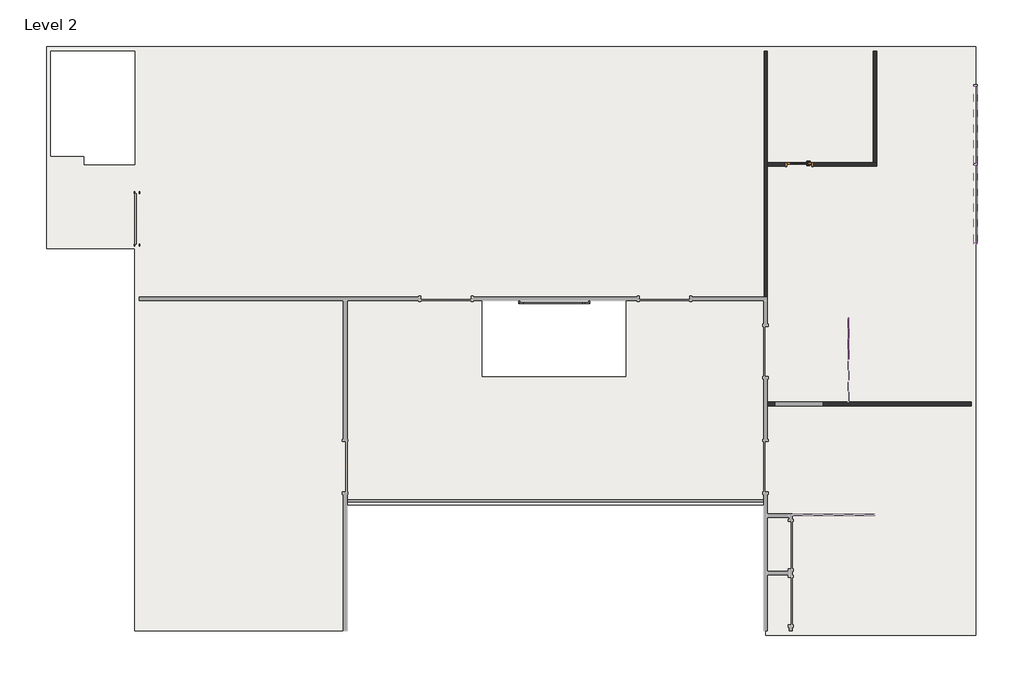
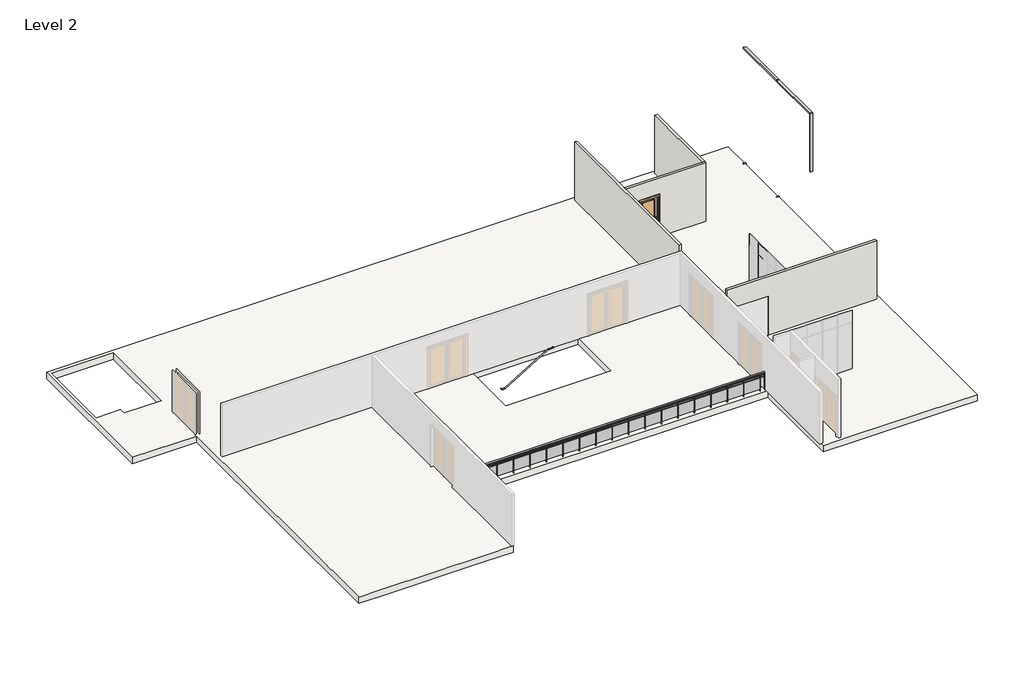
# One storey, part 2 of 2: 14 members, 4 walls, 2 railings, 1 door, 1 slab.
"""IFC4 building model written with IfcOpenShell, lengths in millimetres."""

from ifc_helpers import new_model, si_unit, point, frame, origin, place, context, project, spatial, polyline, circle_curve, ellipse_curve, trimmed, outline, extrude, faceted_brep, transform, mapped, element, save
from ifc_brep_helpers import plane_surface, cylinder_surface, extruded_surface, advanced_brep
from components import door_b5f71497, member_e3fb43e4, member_29374509, member_2936114a, member_48c588a9, member_bc21adc4, member_eac71c60, member_136d72b7, member_eaba9652, member_3f395ae9, member_b11f405a

model = new_model("IFC4")

# Units and contexts
model_context = context("Model", 3, world=origin())
ifc_project = project(units=[si_unit("LENGTHUNIT", "METRE", prefix="MILLI")], contexts=[model_context])

# Site, building, storey
site = spatial("IfcSite", under=ifc_project)
building = spatial("IfcBuilding", under=site)
storey = spatial("IfcBuildingStorey", under=building, Name="Level 2", Elevation=3048.0)

# Door
placement = place(None, origin())
door_shape = door_b5f71497(model_context)
element("IfcDoor", 1, ObjectType="Door-Passage-Single-Full_Lite : 36\" x 84\"", at=placement, inside=storey, context=model_context, shape_type="MappedRepresentation", body=[
    mapped(door_shape, transform((5758.220118, 11480.0483604, 3048.0), x_axis=(-1.0, 0.0, 0.0), y_axis=(0.0, -1.0, 0.0), z_axis=(0.0, 0.0, 1.0))),
])

# Members
member_shape = member_e3fb43e4(model_context)
element("IfcMember", 2, ObjectType="Rectangular Mullion : 1\" Square", at=placement, inside=storey, context=model_context, shape_type="MappedRepresentation", body=[
    mapped(member_shape, transform((7575.907618, 5917.4483604, 5486.4), x_axis=(0.0, 1.0, 0.0), y_axis=(1.0, 0.0, 0.0), z_axis=(0.0, 0.0, -1.0))),
])
member_2_shape = member_29374509(model_context)
element("IfcMember", 3, ObjectType="Rectangular Mullion : 1\" Square", at=placement, inside=storey, context=model_context, shape_type="MappedRepresentation", body=[
    mapped(member_2_shape, transform((7575.907618, 5155.4483603, 3048.0), x_axis=(0.0, 1.0, 0.0), y_axis=(1.0, 0.0, 0.0), z_axis=(0.0, 0.0, -1.0))),
])
member_3_shape = member_2936114a(model_context)
element("IfcMember", 4, ObjectType="Rectangular Mullion : 1\" Square", at=placement, inside=storey, context=model_context, shape_type="MappedRepresentation", body=[
    mapped(member_3_shape, transform((7575.907618, 5155.4483603, 5486.4), x_axis=(0.0, 1.0, 0.0), y_axis=(1.0, 0.0, 0.0), z_axis=(0.0, 0.0, -1.0))),
])
member_4_shape = member_48c588a9(model_context)
element("IfcMember", 5, ObjectType="Rectangular Mullion : 1\" Square", at=placement, inside=storey, context=model_context, shape_type="MappedRepresentation", body=[
    mapped(member_4_shape, transform((7575.907618, 5168.1483603, 3048.0), x_axis=(0.0, 0.0, -1.0), y_axis=(1.0, 0.0, 0.0), z_axis=(0.0, -1.0, 0.0))),
])
member_5_shape = member_bc21adc4(model_context)
element("IfcMember", 6, ObjectType="Rectangular Mullion : 1\" Square", at=placement, inside=storey, context=model_context, shape_type="MappedRepresentation", body=[
    mapped(member_5_shape, transform((7575.907618, 5142.7483603, 6096.0), x_axis=(0.0, 0.0, 1.0), y_axis=(1.0, 0.0, 0.0), z_axis=(0.0, 1.0, 0.0))),
])
member_6_shape = member_eac71c60(model_context)
element("IfcMember", 7, ObjectType="Rectangular Mullion : 1\" Square", at=placement, inside=storey, context=model_context, shape_type="MappedRepresentation", body=[
    mapped(member_6_shape, transform((7575.907618, 5892.0483604, 5486.4), x_axis=(0.0, 0.0, 1.0), y_axis=(1.0, 0.0, 0.0), z_axis=(0.0, 1.0, 0.0))),
])
member_7_shape = member_136d72b7(model_context)
element("IfcMember", 8, ObjectType="Rectangular Mullion : 1\" Square", at=placement, inside=storey, context=model_context, shape_type="MappedRepresentation", body=[
    mapped(member_7_shape, transform((7575.907618, 5142.7483603, 5486.4), x_axis=(0.0, 0.0, 1.0), y_axis=(1.0, 0.0, 0.0), z_axis=(0.0, 1.0, 0.0))),
])
member_8_shape = member_eaba9652(model_context)
element("IfcMember", 9, ObjectType="Rectangular Mullion : 2.5\" x 5\" rectangular", at=placement, inside=storey, context=model_context, shape_type="MappedRepresentation", body=[
    mapped(member_8_shape, transform((12151.082618, 11486.3983604, 0.0), x_axis=(0.0, 1.0, 0.0), y_axis=(1.0, 0.0, 0.0), z_axis=(0.0, 0.0, -1.0))),
])
member_9_shape = member_3f395ae9(model_context)
element("IfcMember", 10, ObjectType="Rectangular Mullion : 2.5\" x 5\" rectangular", at=placement, inside=storey, context=model_context, shape_type="MappedRepresentation", body=[
    mapped(member_9_shape, transform((12151.082618, 8590.7983604, 9144.0), x_axis=(0.0, -1.0, 0.0), y_axis=(1.0, 0.0, 0.0), z_axis=(0.0, 0.0, 1.0))),
])
element("IfcMember", 11, ObjectType="Rectangular Mullion : 2.5\" x 5\" rectangular", at=placement, inside=storey, context=model_context, shape_type="MappedRepresentation", body=[
    mapped(member_9_shape, transform((12151.082618, 14381.9983604, 0.0), x_axis=(0.0, 1.0, 0.0), y_axis=(1.0, 0.0, 0.0), z_axis=(0.0, 0.0, -1.0))),
])
member_10_shape = member_b11f405a(model_context)
element("IfcMember", 12, ObjectType="Rectangular Mullion : 2.5\" x 5\" rectangular", at=placement, inside=storey, context=model_context, shape_type="MappedRepresentation", body=[
    mapped(member_10_shape, transform((12151.082618, 14318.4983604, 9144.0), x_axis=(0.0, 0.0, 1.0), y_axis=(1.0, 0.0, 0.0), z_axis=(0.0, 1.0, 0.0))),
])
element("IfcMember", 13, ObjectType="Rectangular Mullion : 2.5\" x 5\" rectangular", at=placement, inside=storey, context=model_context, shape_type="MappedRepresentation", body=[
    mapped(member_10_shape, transform((12151.082618, 11454.6483604, 9144.0), x_axis=(0.0, 0.0, 1.0), y_axis=(1.0, 0.0, 0.0), z_axis=(0.0, 1.0, 0.0))),
])
element("IfcMember", 14, ObjectType="Rectangular Mullion : 2.5\" x 5\" rectangular", at=placement, inside=storey, context=model_context, shape_type="MappedRepresentation", body=[
    mapped(member_10_shape, transform((12151.082618, 8654.2983604, 0.0), x_axis=(0.0, 0.0, -1.0), y_axis=(1.0, 0.0, 0.0), z_axis=(0.0, -1.0, 0.0))),
])
element("IfcMember", 15, ObjectType="Rectangular Mullion : 2.5\" x 5\" rectangular", at=placement, inside=storey, context=model_context, shape_type="MappedRepresentation", body=[
    mapped(member_10_shape, transform((12151.082618, 11518.1483604, 0.0), x_axis=(0.0, 0.0, -1.0), y_axis=(1.0, 0.0, 0.0), z_axis=(0.0, -1.0, 0.0))),
])

# Railings
element("IfcRailing", 16, ObjectType="Glass Panel - Bottom Fill", at=placement, inside=storey, context=model_context, shape_type="SolidModel", body=[
    advanced_brep(
    [(-10639.067382, -677.0266396, 3962.4), (-10639.067382, -753.2266396, 3962.4), (4461.232618, -677.0266396, 3962.4), (4461.232618, -753.2266396, 3962.4)],
    [
        (0, 1, ellipse_curve(frame((-10639.067382, -715.1266396, 3962.4), z_axis=(-1.0, 0.0, 0.0), x_axis=(0.0, -1.0, 0.0)), 38.1, 28.575)),
        (1, 0, ellipse_curve(frame((-10639.067382, -715.1266396, 3962.4), z_axis=(-1.0, 0.0, 0.0), x_axis=(0.0, -1.0, 0.0)), 38.1, 28.575)),
        (2, 3, ellipse_curve(frame((4461.232618, -715.1266396, 3962.4), z_axis=(1.0, 0.0, 0.0), x_axis=(0.0, -1.0, 0.0)), 38.1, 28.575)),
        (3, 2, ellipse_curve(frame((4461.232618, -715.1266396, 3962.4), z_axis=(1.0, 0.0, 0.0), x_axis=(0.0, -1.0, 0.0)), 38.1, 28.575)),
        (0, 2),
        (3, 1),
    ],
    [
        plane_surface(frame((-10639.067382, -715.1266396, 3962.4), z_axis=(-1.0, 0.0, 0.0), x_axis=(0.0, 1.0, 0.0))),
        plane_surface(frame((4461.232618, -715.1266396, 3962.4), z_axis=(1.0, 0.0, 0.0), x_axis=(0.0, 1.0, 0.0))),
        extruded_surface(trimmed(ellipse_curve(frame((4461.232618, -715.1266396, 3962.4), z_axis=(-1.0, 0.0, 0.0), x_axis=(0.0, -1.0, 0.0)), 38.1, 28.575), [point((4461.232618, -677.0266396, 3962.4))], [point((4461.232618, -753.2266396, 3962.4))], True, "CARTESIAN"), (-15100.3, 0.0, 0.0), 15100.3),
        extruded_surface(trimmed(ellipse_curve(frame((4461.232618, -715.1266396, 3962.4), z_axis=(-1.0, 0.0, 0.0), x_axis=(0.0, -1.0, 0.0)), 38.1, 28.575), [point((4461.232618, -753.2266396, 3962.4))], [point((4461.232618, -677.0266396, 3962.4))], True, "CARTESIAN"), (-15100.3, 0.0, 0.0), 15100.3),
    ],
    [
        (0, [[1, 2]]),
        (1, [[3, 4]]),
        (2, [[-1, 5, -4, 6]]),
        (3, [[-2, -6, -3, -5]]),
    ],
),
    extrude(outline(polyline([(-10639.067382, -727.8266396), (-10639.067382, -702.4266396), (4461.232618, -702.4266396), (4461.232618, -727.8266396), (-10639.067382, -727.8266396)])), frame((0.0, 0.0, 3848.1), z_axis=(0.0, 0.0, 1.0), x_axis=(1.0, 0.0, 0.0)), (0.0, 0.0, 1.0), 25.4),
    extrude(outline(polyline([(-10639.067382, -727.8266396), (-10639.067382, -702.4266396), (4461.232618, -702.4266396), (4461.232618, -727.8266396), (-10639.067382, -727.8266396)])), frame((0.0, 0.0, 3746.5), z_axis=(0.0, 0.0, 1.0), x_axis=(1.0, 0.0, 0.0)), (0.0, 0.0, 1.0), 25.4),
    extrude(outline(polyline([(4219.932618, -740.5266396), (4219.932618, -689.7266396), (4232.632618, -689.7266396), (4232.632618, -740.5266396), (4219.932618, -740.5266396)])), frame((0.0, 0.0, 3048.0), z_axis=(0.0, 0.0, 1.0), x_axis=(1.0, 0.0, 0.0)), (0.0, 0.0, 1.0), 885.6788223),
    extrude(outline(polyline([(3413.482618, -708.5914825), (4226.282618, -708.5914825), (4226.282618, -714.9414825), (3413.482618, -714.9414825), (3413.482618, -708.5914825)])), frame((0.0, 0.0, 3149.6), z_axis=(0.0, 0.0, 1.0), x_axis=(1.0, 0.0, 0.0)), (0.0, 0.0, 1.0), 596.9),
    extrude(outline(polyline([(3407.132618, -740.5266396), (3407.132618, -689.7266396), (3419.832618, -689.7266396), (3419.832618, -740.5266396), (3407.132618, -740.5266396)])), frame((0.0, 0.0, 3048.0), z_axis=(0.0, 0.0, 1.0), x_axis=(1.0, 0.0, 0.0)), (0.0, 0.0, 1.0), 885.6788223),
    extrude(outline(polyline([(2600.682618, -708.5914825), (3413.482618, -708.5914825), (3413.482618, -714.9414825), (2600.682618, -714.9414825), (2600.682618, -708.5914825)])), frame((0.0, 0.0, 3149.6), z_axis=(0.0, 0.0, 1.0), x_axis=(1.0, 0.0, 0.0)), (0.0, 0.0, 1.0), 596.9),
    extrude(outline(polyline([(2594.332618, -740.5266396), (2594.332618, -689.7266396), (2607.032618, -689.7266396), (2607.032618, -740.5266396), (2594.332618, -740.5266396)])), frame((0.0, 0.0, 3048.0), z_axis=(0.0, 0.0, 1.0), x_axis=(1.0, 0.0, 0.0)), (0.0, 0.0, 1.0), 885.6788223),
    extrude(outline(polyline([(1787.882618, -708.5914825), (2600.682618, -708.5914825), (2600.682618, -714.9414825), (1787.882618, -714.9414825), (1787.882618, -708.5914825)])), frame((0.0, 0.0, 3149.6), z_axis=(0.0, 0.0, 1.0), x_axis=(1.0, 0.0, 0.0)), (0.0, 0.0, 1.0), 596.9),
    extrude(outline(polyline([(1781.532618, -740.5266396), (1781.532618, -689.7266396), (1794.232618, -689.7266396), (1794.232618, -740.5266396), (1781.532618, -740.5266396)])), frame((0.0, 0.0, 3048.0), z_axis=(0.0, 0.0, 1.0), x_axis=(1.0, 0.0, 0.0)), (0.0, 0.0, 1.0), 885.6788223),
    extrude(outline(polyline([(975.082618, -708.5914825), (1787.882618, -708.5914825), (1787.882618, -714.9414825), (975.082618, -714.9414825), (975.082618, -708.5914825)])), frame((0.0, 0.0, 3149.6), z_axis=(0.0, 0.0, 1.0), x_axis=(1.0, 0.0, 0.0)), (0.0, 0.0, 1.0), 596.9),
    extrude(outline(polyline([(968.732618, -740.5266396), (968.732618, -689.7266396), (981.432618, -689.7266396), (981.432618, -740.5266396), (968.732618, -740.5266396)])), frame((0.0, 0.0, 3048.0), z_axis=(0.0, 0.0, 1.0), x_axis=(1.0, 0.0, 0.0)), (0.0, 0.0, 1.0), 885.6788223),
    extrude(outline(polyline([(162.282618, -708.5914825), (975.082618, -708.5914825), (975.082618, -714.9414825), (162.282618, -714.9414825), (162.282618, -708.5914825)])), frame((0.0, 0.0, 3149.6), z_axis=(0.0, 0.0, 1.0), x_axis=(1.0, 0.0, 0.0)), (0.0, 0.0, 1.0), 596.9),
    extrude(outline(polyline([(155.932618, -740.5266396), (155.932618, -689.7266396), (168.632618, -689.7266396), (168.632618, -740.5266396), (155.932618, -740.5266396)])), frame((0.0, 0.0, 3048.0), z_axis=(0.0, 0.0, 1.0), x_axis=(1.0, 0.0, 0.0)), (0.0, 0.0, 1.0), 885.6788223),
    extrude(outline(polyline([(-650.517382, -708.5914825), (162.282618, -708.5914825), (162.282618, -714.9414825), (-650.517382, -714.9414825), (-650.517382, -708.5914825)])), frame((0.0, 0.0, 3149.6), z_axis=(0.0, 0.0, 1.0), x_axis=(1.0, 0.0, 0.0)), (0.0, 0.0, 1.0), 596.9),
    extrude(outline(polyline([(-656.867382, -740.5266396), (-656.867382, -689.7266396), (-644.167382, -689.7266396), (-644.167382, -740.5266396), (-656.867382, -740.5266396)])), frame((0.0, 0.0, 3048.0), z_axis=(0.0, 0.0, 1.0), x_axis=(1.0, 0.0, 0.0)), (0.0, 0.0, 1.0), 885.6788223),
    extrude(outline(polyline([(-1463.317382, -708.5914825), (-650.517382, -708.5914825), (-650.517382, -714.9414825), (-1463.317382, -714.9414825), (-1463.317382, -708.5914825)])), frame((0.0, 0.0, 3149.6), z_axis=(0.0, 0.0, 1.0), x_axis=(1.0, 0.0, 0.0)), (0.0, 0.0, 1.0), 596.9),
    extrude(outline(polyline([(-1469.667382, -740.5266396), (-1469.667382, -689.7266396), (-1456.967382, -689.7266396), (-1456.967382, -740.5266396), (-1469.667382, -740.5266396)])), frame((0.0, 0.0, 3048.0), z_axis=(0.0, 0.0, 1.0), x_axis=(1.0, 0.0, 0.0)), (0.0, 0.0, 1.0), 885.6788223),
    extrude(outline(polyline([(-2276.117382, -708.5914825), (-1463.317382, -708.5914825), (-1463.317382, -714.9414825), (-2276.117382, -714.9414825), (-2276.117382, -708.5914825)])), frame((0.0, 0.0, 3149.6), z_axis=(0.0, 0.0, 1.0), x_axis=(1.0, 0.0, 0.0)), (0.0, 0.0, 1.0), 596.9),
    extrude(outline(polyline([(-2282.467382, -740.5266396), (-2282.467382, -689.7266396), (-2269.767382, -689.7266396), (-2269.767382, -740.5266396), (-2282.467382, -740.5266396)])), frame((0.0, 0.0, 3048.0), z_axis=(0.0, 0.0, 1.0), x_axis=(1.0, 0.0, 0.0)), (0.0, 0.0, 1.0), 885.6788223),
    extrude(outline(polyline([(-3088.917382, -708.5914825), (-2276.117382, -708.5914825), (-2276.117382, -714.9414825), (-3088.917382, -714.9414825), (-3088.917382, -708.5914825)])), frame((0.0, 0.0, 3149.6), z_axis=(0.0, 0.0, 1.0), x_axis=(1.0, 0.0, 0.0)), (0.0, 0.0, 1.0), 596.9),
    extrude(outline(polyline([(-3095.267382, -740.5266396), (-3095.267382, -689.7266396), (-3082.567382, -689.7266396), (-3082.567382, -740.5266396), (-3095.267382, -740.5266396)])), frame((0.0, 0.0, 3048.0), z_axis=(0.0, 0.0, 1.0), x_axis=(1.0, 0.0, 0.0)), (0.0, 0.0, 1.0), 885.6788223),
    extrude(outline(polyline([(-3901.717382, -708.5914825), (-3088.917382, -708.5914825), (-3088.917382, -714.9414825), (-3901.717382, -714.9414825), (-3901.717382, -708.5914825)])), frame((0.0, 0.0, 3149.6), z_axis=(0.0, 0.0, 1.0), x_axis=(1.0, 0.0, 0.0)), (0.0, 0.0, 1.0), 596.9),
    extrude(outline(polyline([(-3908.067382, -740.5266396), (-3908.067382, -689.7266396), (-3895.367382, -689.7266396), (-3895.367382, -740.5266396), (-3908.067382, -740.5266396)])), frame((0.0, 0.0, 3048.0), z_axis=(0.0, 0.0, 1.0), x_axis=(1.0, 0.0, 0.0)), (0.0, 0.0, 1.0), 885.6788223),
    extrude(outline(polyline([(-4714.517382, -708.5914825), (-3901.717382, -708.5914825), (-3901.717382, -714.9414825), (-4714.517382, -714.9414825), (-4714.517382, -708.5914825)])), frame((0.0, 0.0, 3149.6), z_axis=(0.0, 0.0, 1.0), x_axis=(1.0, 0.0, 0.0)), (0.0, 0.0, 1.0), 596.9),
    extrude(outline(polyline([(-4720.867382, -740.5266396), (-4720.867382, -689.7266396), (-4708.167382, -689.7266396), (-4708.167382, -740.5266396), (-4720.867382, -740.5266396)])), frame((0.0, 0.0, 3048.0), z_axis=(0.0, 0.0, 1.0), x_axis=(1.0, 0.0, 0.0)), (0.0, 0.0, 1.0), 885.6788223),
    extrude(outline(polyline([(-5527.317382, -708.5914825), (-4714.517382, -708.5914825), (-4714.517382, -714.9414825), (-5527.317382, -714.9414825), (-5527.317382, -708.5914825)])), frame((0.0, 0.0, 3149.6), z_axis=(0.0, 0.0, 1.0), x_axis=(1.0, 0.0, 0.0)), (0.0, 0.0, 1.0), 596.9),
    extrude(outline(polyline([(-5533.667382, -740.5266396), (-5533.667382, -689.7266396), (-5520.967382, -689.7266396), (-5520.967382, -740.5266396), (-5533.667382, -740.5266396)])), frame((0.0, 0.0, 3048.0), z_axis=(0.0, 0.0, 1.0), x_axis=(1.0, 0.0, 0.0)), (0.0, 0.0, 1.0), 885.6788223),
    extrude(outline(polyline([(-6340.117382, -708.5914825), (-5527.317382, -708.5914825), (-5527.317382, -714.9414825), (-6340.117382, -714.9414825), (-6340.117382, -708.5914825)])), frame((0.0, 0.0, 3149.6), z_axis=(0.0, 0.0, 1.0), x_axis=(1.0, 0.0, 0.0)), (0.0, 0.0, 1.0), 596.9),
    extrude(outline(polyline([(-6346.467382, -740.5266396), (-6346.467382, -689.7266396), (-6333.767382, -689.7266396), (-6333.767382, -740.5266396), (-6346.467382, -740.5266396)])), frame((0.0, 0.0, 3048.0), z_axis=(0.0, 0.0, 1.0), x_axis=(1.0, 0.0, 0.0)), (0.0, 0.0, 1.0), 885.6788223),
    extrude(outline(polyline([(-7152.917382, -708.5914825), (-6340.117382, -708.5914825), (-6340.117382, -714.9414825), (-7152.917382, -714.9414825), (-7152.917382, -708.5914825)])), frame((0.0, 0.0, 3149.6), z_axis=(0.0, 0.0, 1.0), x_axis=(1.0, 0.0, 0.0)), (0.0, 0.0, 1.0), 596.9),
    extrude(outline(polyline([(-7159.267382, -740.5266396), (-7159.267382, -689.7266396), (-7146.567382, -689.7266396), (-7146.567382, -740.5266396), (-7159.267382, -740.5266396)])), frame((0.0, 0.0, 3048.0), z_axis=(0.0, 0.0, 1.0), x_axis=(1.0, 0.0, 0.0)), (0.0, 0.0, 1.0), 885.6788223),
    extrude(outline(polyline([(-7965.717382, -708.5914825), (-7152.917382, -708.5914825), (-7152.917382, -714.9414825), (-7965.717382, -714.9414825), (-7965.717382, -708.5914825)])), frame((0.0, 0.0, 3149.6), z_axis=(0.0, 0.0, 1.0), x_axis=(1.0, 0.0, 0.0)), (0.0, 0.0, 1.0), 596.9),
    extrude(outline(polyline([(-7972.067382, -740.5266396), (-7972.067382, -689.7266396), (-7959.367382, -689.7266396), (-7959.367382, -740.5266396), (-7972.067382, -740.5266396)])), frame((0.0, 0.0, 3048.0), z_axis=(0.0, 0.0, 1.0), x_axis=(1.0, 0.0, 0.0)), (0.0, 0.0, 1.0), 885.6788223),
    extrude(outline(polyline([(-8778.517382, -708.5914825), (-7965.717382, -708.5914825), (-7965.717382, -714.9414825), (-8778.517382, -714.9414825), (-8778.517382, -708.5914825)])), frame((0.0, 0.0, 3149.6), z_axis=(0.0, 0.0, 1.0), x_axis=(1.0, 0.0, 0.0)), (0.0, 0.0, 1.0), 596.9),
    extrude(outline(polyline([(-8784.867382, -740.5266396), (-8784.867382, -689.7266396), (-8772.167382, -689.7266396), (-8772.167382, -740.5266396), (-8784.867382, -740.5266396)])), frame((0.0, 0.0, 3048.0), z_axis=(0.0, 0.0, 1.0), x_axis=(1.0, 0.0, 0.0)), (0.0, 0.0, 1.0), 885.6788223),
    extrude(outline(polyline([(-9591.317382, -708.5914825), (-8778.517382, -708.5914825), (-8778.517382, -714.9414825), (-9591.317382, -714.9414825), (-9591.317382, -708.5914825)])), frame((0.0, 0.0, 3149.6), z_axis=(0.0, 0.0, 1.0), x_axis=(1.0, 0.0, 0.0)), (0.0, 0.0, 1.0), 596.9),
    extrude(outline(polyline([(-9597.667382, -740.5266396), (-9597.667382, -689.7266396), (-9584.967382, -689.7266396), (-9584.967382, -740.5266396), (-9597.667382, -740.5266396)])), frame((0.0, 0.0, 3048.0), z_axis=(0.0, 0.0, 1.0), x_axis=(1.0, 0.0, 0.0)), (0.0, 0.0, 1.0), 885.6788223),
    extrude(outline(polyline([(-10404.117382, -708.5914825), (-9591.317382, -708.5914825), (-9591.317382, -714.9414825), (-10404.117382, -714.9414825), (-10404.117382, -708.5914825)])), frame((0.0, 0.0, 3149.6), z_axis=(0.0, 0.0, 1.0), x_axis=(1.0, 0.0, 0.0)), (0.0, 0.0, 1.0), 596.9),
    extrude(outline(polyline([(-10410.467382, -740.5266396), (-10410.467382, -689.7266396), (-10397.767382, -689.7266396), (-10397.767382, -740.5266396), (-10410.467382, -740.5266396)])), frame((0.0, 0.0, 3048.0), z_axis=(0.0, 0.0, 1.0), x_axis=(1.0, 0.0, 0.0)), (0.0, 0.0, 1.0), 885.6788223),
    extrude(outline(polyline([(4448.532618, -724.6516396), (4448.532618, -705.6016396), (4467.582618, -705.6016396), (4467.582618, -724.6516396), (4448.532618, -724.6516396)])), frame((0.0, 0.0, 3048.0), z_axis=(0.0, 0.0, 1.0), x_axis=(1.0, 0.0, 0.0)), (0.0, 0.0, 1.0), 885.6788223),
    extrude(outline(polyline([(-10645.417382, -724.6516396), (-10645.417382, -705.6016396), (-10626.367382, -705.6016396), (-10626.367382, -724.6516396), (-10645.417382, -724.6516396)])), frame((0.0, 0.0, 3048.0), z_axis=(0.0, 0.0, 1.0), x_axis=(1.0, 0.0, 0.0)), (0.0, 0.0, 1.0), 885.6788223),
])
element("IfcRailing", 17, ObjectType="Wall Mount Handrail", at=placement, inside=storey, context=model_context, shape_type="AdvancedBrep", body=[
    advanced_brep(
    [(-4236.7479685, 6482.5983604, 1805.1362182), (-4236.7479685, 6444.4983604, 1805.1362182), (-2105.6952284, 6444.4983604, 3096.6833333), (-2105.6952284, 6482.5983604, 3096.6833333), (-2006.870122, 6444.4983604, 3096.6833333), (-2006.870122, 6482.5983604, 3096.6833333), (-4413.520122, 6539.7483604, 1805.1362182), (-4375.420122, 6539.7483604, 1805.1362182), (-4413.520122, 6444.4983604, 1805.1362182), (-4375.420122, 6482.5983604, 1805.1362182), (-1835.420122, 6444.4983604, 3096.6833333), (-1873.520122, 6482.5983604, 3096.6833333), (-1835.420122, 6539.7483604, 3096.6833333), (-1873.520122, 6539.7483604, 3096.6833333)],
    [
        (0, 1, ellipse_curve(frame((-4236.7479685, 6463.5483604, 1805.1362182), z_axis=(0.963119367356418, 0.0, 0.2690744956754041), x_axis=(0.2690744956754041, 0.0, -0.9631193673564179)), 19.7794797, 19.05)),
        (1, 2),
        (2, 3, ellipse_curve(frame((-2105.6952284, 6463.5483604, 3096.6833333), z_axis=(-0.963119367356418, 0.0, -0.26907449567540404), x_axis=(0.26907449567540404, 0.0, -0.9631193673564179)), 19.7794797, 19.05)),
        (3, 0),
        (1, 0, ellipse_curve(frame((-4236.7479685, 6463.5483604, 1805.1362182), z_axis=(0.963119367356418, 0.0, 0.2690744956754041), x_axis=(0.2690744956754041, 0.0, -0.9631193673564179)), 19.7794797, 19.05)),
        (3, 2, ellipse_curve(frame((-2105.6952284, 6463.5483604, 3096.6833333), z_axis=(-0.963119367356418, 0.0, -0.26907449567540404), x_axis=(0.26907449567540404, 0.0, -0.9631193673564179)), 19.7794797, 19.05)),
        (2, 4),
        (4, 5, circle_curve(frame((-2006.870122, 6463.5483604, 3096.6833333), z_axis=(-1.0, 0.0, 0.0), x_axis=(0.0, 1.0, 0.0)), 19.05)),
        (5, 3),
        (5, 4, circle_curve(frame((-2006.870122, 6463.5483604, 3096.6833333), z_axis=(-1.0, 0.0, 0.0), x_axis=(0.0, 1.0, 0.0)), 19.05)),
        (6, 7, circle_curve(frame((-4394.470122, 6539.7483604, 1805.1362182), z_axis=(0.0, 1.0, 0.0), x_axis=(1.0, 0.0, 0.0)), 19.05)),
        (7, 6, circle_curve(frame((-4394.470122, 6539.7483604, 1805.1362182), z_axis=(0.0, 1.0, 0.0), x_axis=(1.0, 0.0, 0.0)), 19.05)),
        (6, 8),
        (8, 9, ellipse_curve(frame((-4394.470122, 6463.5483604, 1805.1362182), z_axis=(-0.7071067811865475, 0.7071067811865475, 0.0), x_axis=(0.7071067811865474, 0.7071067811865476, 0.0)), 26.9407684, 19.05)),
        (9, 7),
        (9, 8, ellipse_curve(frame((-4394.470122, 6463.5483604, 1805.1362182), z_axis=(-0.7071067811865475, 0.7071067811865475, 0.0), x_axis=(0.7071067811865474, 0.7071067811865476, 0.0)), 26.9407684, 19.05)),
        (8, 1),
        (0, 9),
        (4, 10),
        (10, 11, ellipse_curve(frame((-1854.470122, 6463.5483604, 3096.6833333), z_axis=(-0.7071067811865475, -0.7071067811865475, 0.0), x_axis=(-0.7071067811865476, 0.7071067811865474, 0.0)), 26.9407684, 19.05)),
        (11, 5),
        (11, 10, ellipse_curve(frame((-1854.470122, 6463.5483604, 3096.6833333), z_axis=(-0.7071067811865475, -0.7071067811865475, 0.0), x_axis=(-0.7071067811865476, 0.7071067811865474, 0.0)), 26.9407684, 19.05)),
        (12, 13, circle_curve(frame((-1854.470122, 6539.7483604, 3096.6833333), z_axis=(0.0, 1.0, 0.0), x_axis=(-1.0, 0.0, 0.0)), 19.05)),
        (13, 12, circle_curve(frame((-1854.470122, 6539.7483604, 3096.6833333), z_axis=(0.0, 1.0, 0.0), x_axis=(-1.0, 0.0, 0.0)), 19.05)),
        (10, 12),
        (13, 11),
    ],
    [
        cylinder_surface(frame((-4232.1964743, 6463.5483604, 1807.8946995), z_axis=(-0.8551978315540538, 0.0, -0.5183017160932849), x_axis=(0.0, 1.0, 0.0)), 19.05),
        cylinder_surface(frame((-2111.017382, 6463.5483604, 3096.6833333), z_axis=(-1.0, 0.0, 0.0), x_axis=(0.0, 1.0, 0.0)), 19.05),
        plane_surface(frame((-4394.470122, 6539.7483604, 1824.1862182), z_axis=(0.0, 1.0, 0.0), x_axis=(0.0, 0.0, -1.0))),
        cylinder_surface(frame((-4394.470122, 6539.7483604, 1805.1362182), z_axis=(0.0, 1.0, 0.0), x_axis=(1.0, 0.0, 0.0)), 19.05),
        cylinder_surface(frame((-4394.470122, 6463.5483604, 1805.1362182), z_axis=(-1.0, 0.0, 0.0), x_axis=(0.0, 1.0, 0.0)), 19.05),
        cylinder_surface(frame((-2006.870122, 6463.5483604, 3096.6833333), z_axis=(-1.0, 0.0, 0.0), x_axis=(0.0, 1.0, 0.0)), 19.05),
        plane_surface(frame((-1854.470122, 6539.7483604, 3115.7333333), z_axis=(0.0, 1.0, 0.0), x_axis=(0.0, 0.0, 1.0))),
        cylinder_surface(frame((-1854.470122, 6463.5483604, 3096.6833333), z_axis=(0.0, -1.0, 0.0), x_axis=(-1.0, 0.0, 0.0)), 19.05),
    ],
    [
        (0, [[1, 2, 3, 4]]),
        (0, [[5, -4, 6, -2]]),
        (1, [[-3, 7, 8, 9]]),
        (1, [[-6, -9, 10, -7]]),
        (2, [[11, 12]]),
        (3, [[-11, 13, 14, 15]]),
        (3, [[-12, -15, 16, -13]]),
        (4, [[-14, 17, -1, 18]]),
        (4, [[-16, -18, -5, -17]]),
        (5, [[-8, 19, 20, 21]]),
        (5, [[-10, -21, 22, -19]]),
        (6, [[23, 24]]),
        (7, [[-20, 25, -24, 26]]),
        (7, [[-22, -26, -23, -25]]),
    ],
),
])

# Slab
element("IfcSlab", 18, ObjectType="Wood Truss  Joist 12\" - Carpet Finish ", at=placement, inside=storey, context=model_context, shape_type="Brep", body=[
    faceted_brep([(12160.607618, 15763.1233604, 2724.15), (12160.607618, 15598.0233604, 2724.15), (12160.607618, 14381.9983604, 2724.15), (12160.607618, 8590.7983604, 2724.15), (12160.607618, -5591.9266396, 2724.15), (11995.507618, -5591.9266396, 2724.15), (11084.282618, -5591.9266396, 2724.15), (5902.682618, -5591.9266396, 2724.15), (4531.082618, -5591.9266396, 2724.15), (4531.082618, -5426.8266396, 2724.15), (4531.082618, -867.5266396, 2724.15), (-10708.917382, -867.5266396, 2724.15), (-10708.917382, -5426.8266396, 2724.15), (-10708.917382, -5439.5266396, 2724.15), (-12080.517382, -5439.5266396, 2724.15), (-17262.117382, -5439.5266396, 2724.15), (-18338.442382, -5439.5266396, 2724.15), (-18338.442382, -5426.8266396, 2724.15), (-18338.442382, 8438.3983604, 2724.15), (-21532.492382, 8438.3983604, 2724.15), (-21532.492382, 15763.1233604, 2724.15), (-21376.917382, 15763.1233604, 2724.15), (-10404.117382, 15763.1233604, 2724.15), (4226.282618, 15763.1233604, 2724.15), (-5743.217382, 3796.5483604, 2724.15), (-536.217382, 3796.5483604, 2724.15), (-536.217382, 6609.5983604, 2724.15), (-5743.217382, 6609.5983604, 2724.15), (-18328.917382, 11483.2233604, 2724.15), (-18328.917382, 15598.0233604, 2724.15), (-21376.917382, 15598.0233604, 2724.15), (-21376.917382, 11788.0233604, 2724.15), (-20157.717382, 11788.0233604, 2724.15), (-20157.717382, 11483.2233604, 2724.15), (12160.607618, -5591.9266396, 3048.0), (12160.607618, 8590.7983604, 3048.0), (12160.607618, 14381.9983604, 3048.0), (12160.607618, 15598.0233604, 3048.0), (12160.607618, 15763.1233604, 3048.0), (4226.282618, 15763.1233604, 3048.0), (-10404.117382, 15763.1233604, 3048.0), (-21376.917382, 15763.1233604, 3048.0), (-21532.492382, 15763.1233604, 3048.0), (-21532.492382, 8438.3983604, 3048.0), (-18338.442382, 8438.3983604, 3048.0), (-18338.442382, -5426.8266396, 3048.0), (-18338.442382, -5439.5266396, 3048.0), (-17262.117382, -5439.5266396, 3048.0), (-12080.517382, -5439.5266396, 3048.0), (-10708.917382, -5439.5266396, 3048.0), (-10708.917382, -5426.8266396, 3048.0), (-10708.917382, -867.5266396, 3048.0), (4531.082618, -867.5266396, 3048.0), (4531.082618, -5426.8266396, 3048.0), (4531.082618, -5591.9266396, 3048.0), (5902.682618, -5591.9266396, 3048.0), (11084.282618, -5591.9266396, 3048.0), (11995.507618, -5591.9266396, 3048.0), (-536.217382, 3796.5483604, 3048.0), (-5743.217382, 3796.5483604, 3048.0), (-5743.217382, 6609.5983604, 3048.0), (-536.217382, 6609.5983604, 3048.0), (-18328.917382, 15598.0233604, 3048.0), (-18328.917382, 11483.2233604, 3048.0), (-20157.717382, 11483.2233604, 3048.0), (-20157.717382, 11788.0233604, 3048.0), (-21376.917382, 11788.0233604, 3048.0), (-21376.917382, 15598.0233604, 3048.0)], [[[0, 1, 2, 3, 4, 5, 6, 7, 8, 9, 10, 11, 12, 13, 14, 15, 16, 17, 18, 19, 20, 21, 22, 23], [24, 25, 26, 27], [28, 29, 30, 31, 32, 33]], [[34, 35, 36, 37, 38, 39, 40, 41, 42, 43, 44, 45, 46, 47, 48, 49, 50, 51, 52, 53, 54, 55, 56, 57], [58, 59, 60, 61], [62, 63, 64, 65, 66, 67]], [[4, 3, 2, 1, 0, 38, 37, 36, 35, 34]], [[8, 7, 6, 5, 4, 34, 57, 56, 55, 54]], [[16, 15, 14, 13, 49, 48, 47, 46]], [[18, 17, 16, 46, 45, 44]], [[19, 18, 44, 43]], [[20, 19, 43, 42]], [[0, 23, 22, 21, 20, 42, 41, 40, 39, 38]], [[10, 9, 8, 54, 53, 52]], [[11, 10, 52, 51]], [[13, 12, 11, 51, 50, 49]], [[24, 59, 58, 25]], [[25, 58, 61, 26]], [[26, 61, 60, 27]], [[59, 24, 27, 60]], [[28, 63, 62, 29]], [[29, 62, 67, 30]], [[30, 67, 66, 31]], [[31, 66, 65, 32]], [[32, 65, 64, 33]], [[63, 28, 33, 64]]]),
])

# Walls
element("IfcWall", 19, ObjectType="Interior - 4 7/8\" Partition (1-hr)", at=placement, inside=storey, context=model_context, shape_type="Brep", body=[
    faceted_brep([(4600.932618, 6679.4483604, 3048.0), (4600.932618, 11424.4858604, 3048.0), (4600.932618, 11548.3108604, 3048.0), (4600.932618, 15598.0233604, 3048.0), (4600.932618, 15598.0233604, 6096.0), (4600.932618, 11548.3108604, 6096.0), (4600.932618, 11424.4858604, 6096.0), (4600.932618, 6679.4483604, 6096.0), (4477.107618, 6679.4483604, 3048.0), (4477.107618, 6679.4483604, 6096.0), (4477.107618, 15598.0233604, 6096.0), (4477.107618, 15598.0233604, 3048.0)], [[[0, 1, 2, 3, 4, 5, 6, 7]], [[8, 9, 10, 11]], [[3, 2, 1, 0, 8, 11]], [[7, 6, 5, 4, 10, 9]], [[4, 3, 11, 10]], [[0, 7, 9, 8]]]),
])
element("IfcWall", 20, ObjectType="Interior - 4 7/8\" Partition (1-hr)", at=placement, inside=storey, context=model_context, shape_type="Brep", body=[
    faceted_brep([(8563.332618, 11424.4858604, 6096.0), (4600.932618, 11424.4858604, 6096.0), (4600.932618, 11424.4858604, 3048.0), (5250.220118, 11424.4858604, 3048.0), (5250.220118, 11424.4858604, 5283.2), (6266.220118, 11424.4858604, 5283.2), (6266.220118, 11424.4858604, 3048.0), (8563.332618, 11424.4858604, 3048.0), (4600.932618, 11548.3108604, 6096.0), (8439.507618, 11548.3108604, 6096.0), (8563.332618, 11548.3108604, 6096.0), (8563.332618, 11548.3108604, 3048.0), (8439.507618, 11548.3108604, 3048.0), (6266.220118, 11548.3108604, 3048.0), (6266.220118, 11548.3108604, 5283.2), (5250.220118, 11548.3108604, 5283.2), (5250.220118, 11548.3108604, 3048.0), (4600.932618, 11548.3108604, 3048.0)], [[[0, 1, 2, 3, 4, 5, 6, 7]], [[8, 9, 10, 11, 12, 13, 14, 15, 16, 17]], [[2, 17, 16, 3]], [[11, 7, 6, 13, 12]], [[1, 0, 10, 9, 8]], [[2, 1, 8, 17]], [[0, 7, 11, 10]], [[15, 4, 3, 16]], [[4, 15, 14, 5]], [[5, 14, 13, 6]]]),
])
element("IfcWall", 21, ObjectType="Interior - 4 7/8\" Partition (1-hr)", at=placement, inside=storey, context=model_context, shape_type="SweptSolid", body=[
    extrude(outline(polyline([(8439.507618, 11548.3108604), (8439.507618, 15598.0233604), (8563.332618, 15598.0233604), (8563.332618, 11548.3108604), (8439.507618, 11548.3108604)])), frame((0.0, 0.0, 3048.0), z_axis=(0.0, 0.0, 1.0), x_axis=(1.0, 0.0, 0.0)), (0.0, 0.0, 1.0), 3048.0),
])
element("IfcWall", 22, ObjectType="Interior - 5 1/2\" Partition (1-hr)", at=placement, inside=storey, context=model_context, shape_type="SweptSolid", body=[
    extrude(outline(polyline([(6096.0, 11995.507618), (6096.0, 4600.932618), (3048.0, 4600.932618), (3048.0, 4886.682618), (5080.0, 4886.682618), (5080.0, 6613.882618), (3048.0, 6613.882618), (3048.0, 11995.507618), (6096.0, 11995.507618)])), frame((0.0, 2729.7483604, 0.0), z_axis=(0.0, 1.0, 0.0), x_axis=(0.0, 0.0, 1.0)), (0.0, 0.0, 1.0), 139.7),
])

save(model, "model.ifc")
